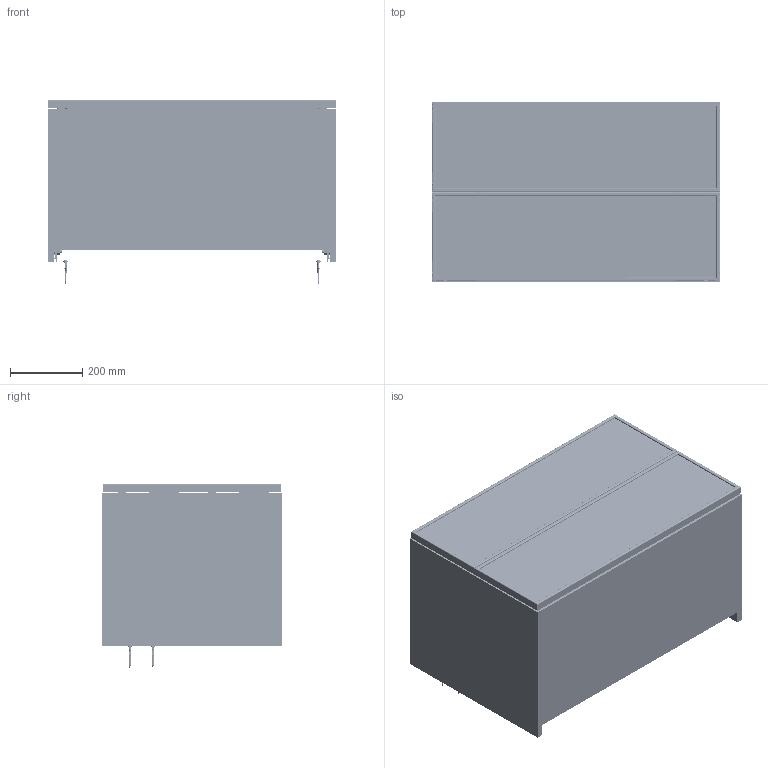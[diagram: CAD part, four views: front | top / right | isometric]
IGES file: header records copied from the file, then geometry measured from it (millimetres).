
Global section: file name: 3D Dosyası,; native system: Autodesk Inventor 2024; preprocessor: unknown; author: pc11; date: 20250708.134107; units: millimetre
Bounding box: 800 x 500 x 509.85 mm (x, y, z)
Volume: 32076083.1 mm3; surface area: 6038654.2 mm2
Topology: 115 solids, 116 shells, 7562 faces, 20521 edges, 13127 vertices
Faces by surface type: bspline 7562
